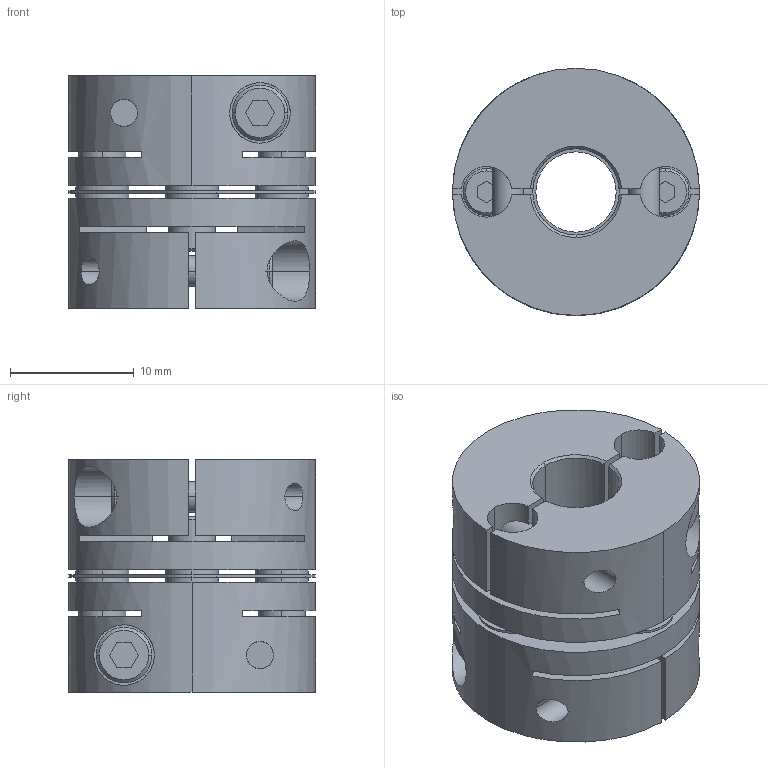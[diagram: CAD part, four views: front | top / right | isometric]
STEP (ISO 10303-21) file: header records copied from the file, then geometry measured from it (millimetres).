
FILE_DESCRIPTION((''),'2;1');
FILE_NAME('LAS-20C-7×8.stp','2011-08-10T08:58:58',(''),(''),'AutoCAD STEP 2000i','AutoCAD 2000i',', , ');
FILE_SCHEMA(('CONFIG_CONTROL_DESIGN'));
Length unit declared in the file: millimetre
Products named in the file (5): LAS-20C-4×4; 忣兜1; LA-2002-D04-1; LA-2002-D04; LAS20-ITA
Assembly tree (4 placements, depth 2):
  LAS-20C-4×4
    忣兜1
    LA-2002-D04-1
    LA-2002-D04
    LAS20-ITA
Bounding box: 20 x 20 x 18.8 mm (x, y, z)
Volume: 4245.1 mm3; surface area: 4463.4 mm2
Topology: 1 solids, 1 shells, 236 faces, 624 edges, 408 vertices
Faces by surface type: plane 112, cylinder 96, cone 28
Entity records: 8203 total; most frequent: CARTESIAN_POINT 2009, DIRECTION 1302, ORIENTED_EDGE 1248, EDGE_CURVE 624, AXIS2_PLACEMENT_3D 477, VERTEX_POINT 408, VECTOR 348, LINE 348
